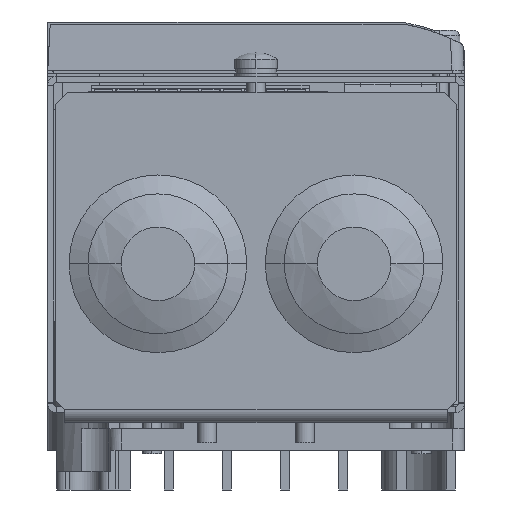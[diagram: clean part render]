
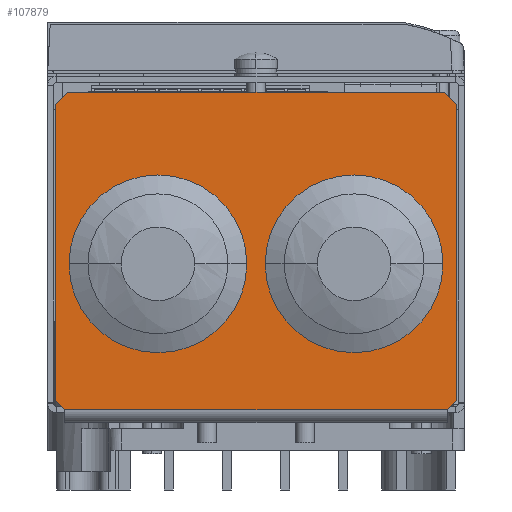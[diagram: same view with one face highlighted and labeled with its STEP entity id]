
A CAD part, front view. The second image highlights one B-rep face of the part: STEP entity #107879.
In plain terms, the highlighted planar face has unit normal (0, -1, 0).
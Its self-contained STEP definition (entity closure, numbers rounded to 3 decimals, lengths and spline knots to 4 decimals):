
#105788=DIRECTION('',(0.,0.,1.));
#105789=VECTOR('',#105788,1.9016);
#105790=CARTESIAN_POINT('',(1.2874,-3.3071,
0.5748));
#105791=LINE('',#105790,#105789);
#105909=DIRECTION('',(1.,0.,0.));
#105910=VECTOR('',#105909,2.4567);
#105911=CARTESIAN_POINT('',(-1.2283,-3.3071,
0.5157));
#105912=LINE('',#105911,#105910);
#105917=DIRECTION('',(0.707,0.,-0.707));
#105918=VECTOR('',#105917,0.1114);
#105919=CARTESIAN_POINT('',(1.2087,-3.3071,
2.5551));
#105920=LINE('',#105919,#105918);
#105921=DIRECTION('',(-0.707,0.,
-0.707));
#105922=VECTOR('',#105921,0.0835);
#105923=CARTESIAN_POINT('',(1.2874,-3.3071,
0.5748));
#105924=LINE('',#105923,#105922);
#105925=DIRECTION('',(-0.707,0.,0.707));
#105926=VECTOR('',#105925,0.0835);
#105927=CARTESIAN_POINT('',(-1.2283,-3.3071,
0.5157));
#105928=LINE('',#105927,#105926);
#105929=DIRECTION('',(0.707,0.,0.707));
#105930=VECTOR('',#105929,0.1114);
#105931=CARTESIAN_POINT('',(-1.2874,-3.3071,
2.4764));
#105932=LINE('',#105931,#105930);
#105933=CARTESIAN_POINT('',(-0.6299,-3.3071,
1.4528));
#105934=DIRECTION('',(0.,-1.,0.));
#105935=DIRECTION('',(-1.,0.,0.));
#105936=AXIS2_PLACEMENT_3D('',#105933,#105934,#105935);
#105938=CARTESIAN_POINT('',(-0.6299,-3.3071,
1.4528));
#105939=DIRECTION('',(0.,-1.,0.));
#105940=DIRECTION('',(1.,0.,0.));
#105941=AXIS2_PLACEMENT_3D('',#105938,#105939,#105940);
#105943=CARTESIAN_POINT('',(0.6299,-3.3071,
1.4528));
#105944=DIRECTION('',(0.,-1.,0.));
#105945=DIRECTION('',(-1.,0.,0.));
#105946=AXIS2_PLACEMENT_3D('',#105943,#105944,#105945);
#105948=CARTESIAN_POINT('',(0.6299,-3.3071,
1.4528));
#105949=DIRECTION('',(0.,-1.,0.));
#105950=DIRECTION('',(1.,0.,0.));
#105951=AXIS2_PLACEMENT_3D('',#105948,#105949,#105950);
#105957=DIRECTION('',(0.,0.,-1.));
#105958=VECTOR('',#105957,1.9016);
#105959=CARTESIAN_POINT('',(-1.2874,-3.3071,
2.4764));
#105960=LINE('',#105959,#105958);
#105965=DIRECTION('',(-1.,0.,0.));
#105966=VECTOR('',#105965,2.4173);
#105967=CARTESIAN_POINT('',(1.2087,-3.3071,
2.5551));
#105968=LINE('',#105967,#105966);
#107003=CARTESIAN_POINT('',(-1.2283,-3.3071,
0.5157));
#107004=VERTEX_POINT('',#107003);
#107027=CARTESIAN_POINT('',(1.2874,-3.3071,
2.4764));
#107028=VERTEX_POINT('',#107027);
#107029=CARTESIAN_POINT('',(1.2087,-3.3071,
2.5551));
#107030=VERTEX_POINT('',#107029);
#107031=CARTESIAN_POINT('',(1.2874,-3.3071,
0.5748));
#107032=VERTEX_POINT('',#107031);
#107033=CARTESIAN_POINT('',(1.2283,-3.3071,
0.5157));
#107034=VERTEX_POINT('',#107033);
#107061=CARTESIAN_POINT('',(-1.2874,-3.3071,
0.5748));
#107062=VERTEX_POINT('',#107061);
#107063=CARTESIAN_POINT('',(-1.2874,-3.3071,
2.4764));
#107064=VERTEX_POINT('',#107063);
#107065=CARTESIAN_POINT('',(-1.2087,-3.3071,
2.5551));
#107066=VERTEX_POINT('',#107065);
#107067=CARTESIAN_POINT('',(-1.063,-3.3071,
1.4528));
#107068=CARTESIAN_POINT('',(-0.1969,-3.3071,
1.4528));
#107069=VERTEX_POINT('',#107067);
#107070=VERTEX_POINT('',#107068);
#107071=CARTESIAN_POINT('',(0.1969,-3.3071,
1.4528));
#107072=CARTESIAN_POINT('',(1.063,-3.3071,
1.4528));
#107073=VERTEX_POINT('',#107071);
#107074=VERTEX_POINT('',#107072);
#107848=CARTESIAN_POINT('',(0.,-3.3071,0.4331));
#107849=DIRECTION('',(0.,-1.,0.));
#107850=DIRECTION('',(1.,0.,0.));
#107851=AXIS2_PLACEMENT_3D('',#107848,#107849,#107850);
#107852=PLANE('',#107851);
#107853=ORIENTED_EDGE('',*,*,#107682,.T.);
#107854=ORIENTED_EDGE('',*,*,#107698,.F.);
#107855=ORIENTED_EDGE('',*,*,#107711,.T.);
#107856=ORIENTED_EDGE('',*,*,#107840,.F.);
#107858=ORIENTED_EDGE('',*,*,#107857,.T.);
#107860=ORIENTED_EDGE('',*,*,#107859,.F.);
#107862=ORIENTED_EDGE('',*,*,#107861,.T.);
#107864=ORIENTED_EDGE('',*,*,#107863,.F.);
#107865=EDGE_LOOP('',(#107853,#107854,#107855,#107856,#107858,#107860,#107862,
#107864));
#107866=FACE_OUTER_BOUND('',#107865,.F.);
#107868=ORIENTED_EDGE('',*,*,#107867,.T.);
#107870=ORIENTED_EDGE('',*,*,#107869,.T.);
#107871=EDGE_LOOP('',(#107868,#107870));
#107872=FACE_BOUND('',#107871,.F.);
#107874=ORIENTED_EDGE('',*,*,#107873,.T.);
#107876=ORIENTED_EDGE('',*,*,#107875,.T.);
#107877=EDGE_LOOP('',(#107874,#107876));
#107878=FACE_BOUND('',#107877,.F.);
#107879=ADVANCED_FACE('',(#107866,#107872,#107878),#107852,.T.);
#105937=CIRCLE('',#105936,0.4331);
#105942=CIRCLE('',#105941,0.4331);
#105947=CIRCLE('',#105946,0.4331);
#105952=CIRCLE('',#105951,0.4331);
#107682=EDGE_CURVE('',#107030,#107028,#105920,.T.);
#107698=EDGE_CURVE('',#107032,#107028,#105791,.T.);
#107711=EDGE_CURVE('',#107032,#107034,#105924,.T.);
#107840=EDGE_CURVE('',#107004,#107034,#105912,.T.);
#107857=EDGE_CURVE('',#107004,#107062,#105928,.T.);
#107859=EDGE_CURVE('',#107064,#107062,#105960,.T.);
#107861=EDGE_CURVE('',#107064,#107066,#105932,.T.);
#107863=EDGE_CURVE('',#107030,#107066,#105968,.T.);
#107867=EDGE_CURVE('',#107069,#107070,#105937,.T.);
#107869=EDGE_CURVE('',#107070,#107069,#105942,.T.);
#107873=EDGE_CURVE('',#107073,#107074,#105947,.T.);
#107875=EDGE_CURVE('',#107074,#107073,#105952,.T.);
